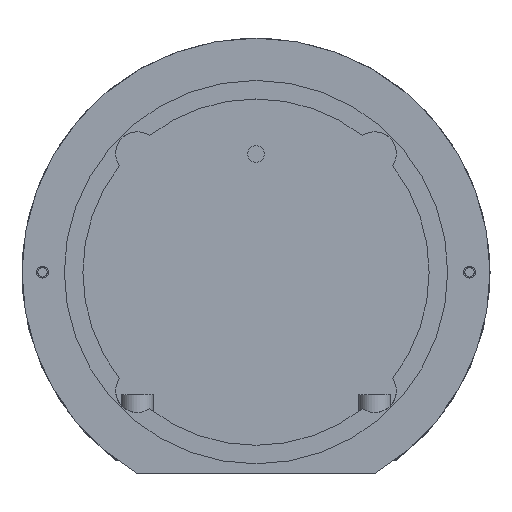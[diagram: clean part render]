
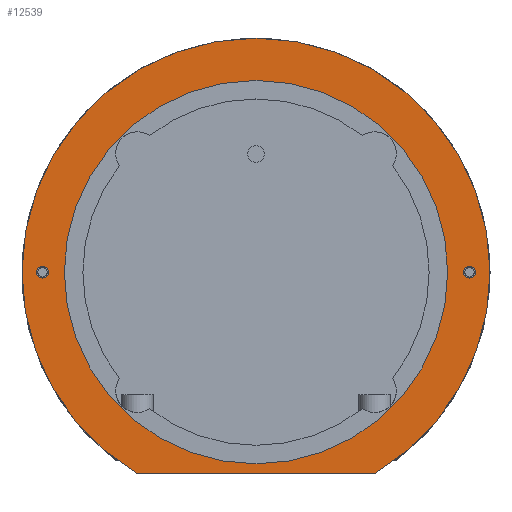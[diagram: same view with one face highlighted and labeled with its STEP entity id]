
A CAD part, top view. The second image highlights one B-rep face of the part: STEP entity #12539.
In plain terms, the highlighted planar face has unit normal (0, 0, 1).
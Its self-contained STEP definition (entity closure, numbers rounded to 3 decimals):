
#11918 = CYLINDRICAL_SURFACE('',#11919,65.);
#11919 = AXIS2_PLACEMENT_3D('',#11920,#11921,#11922);
#11920 = CARTESIAN_POINT('',(0.,0.,129.));
#11921 = DIRECTION('',(-0.,-0.,-1.));
#11922 = DIRECTION('',(1.,0.,0.));
#11943 = VERTEX_POINT('',#11944);
#11944 = CARTESIAN_POINT('',(33.,-56.,146.));
#11958 = PLANE('',#11959);
#11959 = AXIS2_PLACEMENT_3D('',#11960,#11961,#11962);
#11960 = CARTESIAN_POINT('',(-200.,-56.,-151.));
#11961 = DIRECTION('',(0.,1.,0.));
#11962 = DIRECTION('',(0.,0.,1.));
#11970 = EDGE_CURVE('',#11971,#11943,#11973,.T.);
#11971 = VERTEX_POINT('',#11972);
#11972 = CARTESIAN_POINT('',(-33.,-56.,146.));
#11973 = SURFACE_CURVE('',#11974,(#11979,#11986),.PCURVE_S1.);
#11974 = CIRCLE('',#11975,65.);
#11975 = AXIS2_PLACEMENT_3D('',#11976,#11977,#11978);
#11976 = CARTESIAN_POINT('',(0.,0.,146.));
#11977 = DIRECTION('',(-0.,0.,-1.));
#11978 = DIRECTION('',(-0.508,-0.862,0.));
#11979 = PCURVE('',#11918,#11980);
#11980 = DEFINITIONAL_REPRESENTATION('',(#11981),#11985);
#11981 = LINE('',#11982,#11983);
#11982 = CARTESIAN_POINT('',(-10.463,-17.));
#11983 = VECTOR('',#11984,1.);
#11984 = DIRECTION('',(1.,-0.));
#11985 = ( GEOMETRIC_REPRESENTATION_CONTEXT(2) 
PARAMETRIC_REPRESENTATION_CONTEXT() REPRESENTATION_CONTEXT('2D SPACE',''
  ) );
#11986 = PCURVE('',#11987,#11992);
#11987 = PLANE('',#11988);
#11988 = AXIS2_PLACEMENT_3D('',#11989,#11990,#11991);
#11989 = CARTESIAN_POINT('',(0.,0.,146.
    ));
#11990 = DIRECTION('',(0.,0.,1.));
#11991 = DIRECTION('',(1.,0.,-0.));
#11992 = DEFINITIONAL_REPRESENTATION('',(#11993),#12001);
#11993 = ( BOUNDED_CURVE() B_SPLINE_CURVE(2,(#11994,#11995,#11996,#11997
    ,#11998,#11999,#12000),.UNSPECIFIED.,.T.,.F.) 
B_SPLINE_CURVE_WITH_KNOTS((1,2,2,2,2,1),(-2.094,0.,
    2.094,4.189,6.283,8.378),
.UNSPECIFIED.) CURVE() GEOMETRIC_REPRESENTATION_ITEM() 
RATIONAL_B_SPLINE_CURVE((1.,0.5,1.,0.5,1.,0.5,1.)) REPRESENTATION_ITEM(
  '') );
#11994 = CARTESIAN_POINT('',(-33.,-56.));
#11995 = CARTESIAN_POINT('',(-129.995,1.158));
#11996 = CARTESIAN_POINT('',(-31.997,56.579));
#11997 = CARTESIAN_POINT('',(66.,112.));
#11998 = CARTESIAN_POINT('',(64.997,-0.579));
#11999 = CARTESIAN_POINT('',(63.995,-113.158));
#12000 = CARTESIAN_POINT('',(-33.,-56.));
#12001 = ( GEOMETRIC_REPRESENTATION_CONTEXT(2) 
PARAMETRIC_REPRESENTATION_CONTEXT() REPRESENTATION_CONTEXT('2D SPACE',''
  ) );
#12142 = CYLINDRICAL_SURFACE('',#12143,1.65);
#12143 = AXIS2_PLACEMENT_3D('',#12144,#12145,#12146);
#12144 = CARTESIAN_POINT('',(-59.3,0.,128.5));
#12145 = DIRECTION('',(-0.,-0.,-1.));
#12146 = DIRECTION('',(1.,0.,0.));
#12466 = CYLINDRICAL_SURFACE('',#12467,1.65);
#12467 = AXIS2_PLACEMENT_3D('',#12468,#12469,#12470);
#12468 = CARTESIAN_POINT('',(59.3,0.,128.5));
#12469 = DIRECTION('',(-0.,-0.,-1.));
#12470 = DIRECTION('',(1.,0.,0.));
#12517 = EDGE_CURVE('',#11943,#11971,#12518,.T.);
#12518 = SURFACE_CURVE('',#12519,(#12523,#12530),.PCURVE_S1.);
#12519 = LINE('',#12520,#12521);
#12520 = CARTESIAN_POINT('',(-100.,-56.,146.));
#12521 = VECTOR('',#12522,1.);
#12522 = DIRECTION('',(-1.,0.,0.));
#12523 = PCURVE('',#11958,#12524);
#12524 = DEFINITIONAL_REPRESENTATION('',(#12525),#12529);
#12525 = LINE('',#12526,#12527);
#12526 = CARTESIAN_POINT('',(297.,100.));
#12527 = VECTOR('',#12528,1.);
#12528 = DIRECTION('',(0.,-1.));
#12529 = ( GEOMETRIC_REPRESENTATION_CONTEXT(2) 
PARAMETRIC_REPRESENTATION_CONTEXT() REPRESENTATION_CONTEXT('2D SPACE',''
  ) );
#12530 = PCURVE('',#11987,#12531);
#12531 = DEFINITIONAL_REPRESENTATION('',(#12532),#12536);
#12532 = LINE('',#12533,#12534);
#12533 = CARTESIAN_POINT('',(-100.,-56.));
#12534 = VECTOR('',#12535,1.);
#12535 = DIRECTION('',(-1.,0.));
#12536 = ( GEOMETRIC_REPRESENTATION_CONTEXT(2) 
PARAMETRIC_REPRESENTATION_CONTEXT() REPRESENTATION_CONTEXT('2D SPACE',''
  ) );
#12539 = ADVANCED_FACE('',(#12540,#12544,#12574,#12609),#11987,.T.);
#12540 = FACE_BOUND('',#12541,.T.);
#12541 = EDGE_LOOP('',(#12542,#12543));
#12542 = ORIENTED_EDGE('',*,*,#12517,.F.);
#12543 = ORIENTED_EDGE('',*,*,#11970,.F.);
#12544 = FACE_BOUND('',#12545,.T.);
#12545 = EDGE_LOOP('',(#12546));
#12546 = ORIENTED_EDGE('',*,*,#12547,.T.);
#12547 = EDGE_CURVE('',#12548,#12548,#12550,.T.);
#12548 = VERTEX_POINT('',#12549);
#12549 = CARTESIAN_POINT('',(-57.65,0.,146.));
#12550 = SURFACE_CURVE('',#12551,(#12556,#12567),.PCURVE_S1.);
#12551 = CIRCLE('',#12552,1.65);
#12552 = AXIS2_PLACEMENT_3D('',#12553,#12554,#12555);
#12553 = CARTESIAN_POINT('',(-59.3,0.,146.));
#12554 = DIRECTION('',(0.,0.,-1.));
#12555 = DIRECTION('',(1.,0.,0.));
#12556 = PCURVE('',#11987,#12557);
#12557 = DEFINITIONAL_REPRESENTATION('',(#12558),#12566);
#12558 = ( BOUNDED_CURVE() B_SPLINE_CURVE(2,(#12559,#12560,#12561,#12562
    ,#12563,#12564,#12565),.UNSPECIFIED.,.T.,.F.) 
B_SPLINE_CURVE_WITH_KNOTS((1,2,2,2,2,1),(-2.094,0.,
    2.094,4.189,6.283,8.378),
.UNSPECIFIED.) CURVE() GEOMETRIC_REPRESENTATION_ITEM() 
RATIONAL_B_SPLINE_CURVE((1.,0.5,1.,0.5,1.,0.5,1.)) REPRESENTATION_ITEM(
  '') );
#12559 = CARTESIAN_POINT('',(-57.65,0.));
#12560 = CARTESIAN_POINT('',(-57.65,-2.858));
#12561 = CARTESIAN_POINT('',(-60.125,-1.429));
#12562 = CARTESIAN_POINT('',(-62.6,0.));
#12563 = CARTESIAN_POINT('',(-60.125,1.429));
#12564 = CARTESIAN_POINT('',(-57.65,2.858));
#12565 = CARTESIAN_POINT('',(-57.65,0.));
#12566 = ( GEOMETRIC_REPRESENTATION_CONTEXT(2) 
PARAMETRIC_REPRESENTATION_CONTEXT() REPRESENTATION_CONTEXT('2D SPACE',''
  ) );
#12567 = PCURVE('',#12142,#12568);
#12568 = DEFINITIONAL_REPRESENTATION('',(#12569),#12573);
#12569 = LINE('',#12570,#12571);
#12570 = CARTESIAN_POINT('',(-6.283,-17.5));
#12571 = VECTOR('',#12572,1.);
#12572 = DIRECTION('',(1.,-0.));
#12573 = ( GEOMETRIC_REPRESENTATION_CONTEXT(2) 
PARAMETRIC_REPRESENTATION_CONTEXT() REPRESENTATION_CONTEXT('2D SPACE',''
  ) );
#12574 = FACE_BOUND('',#12575,.T.);
#12575 = EDGE_LOOP('',(#12576));
#12576 = ORIENTED_EDGE('',*,*,#12577,.T.);
#12577 = EDGE_CURVE('',#12578,#12578,#12580,.T.);
#12578 = VERTEX_POINT('',#12579);
#12579 = CARTESIAN_POINT('',(53.25,0.,146.));
#12580 = SURFACE_CURVE('',#12581,(#12586,#12597),.PCURVE_S1.);
#12581 = CIRCLE('',#12582,53.25);
#12582 = AXIS2_PLACEMENT_3D('',#12583,#12584,#12585);
#12583 = CARTESIAN_POINT('',(0.,0.,146.));
#12584 = DIRECTION('',(0.,0.,-1.));
#12585 = DIRECTION('',(1.,0.,0.));
#12586 = PCURVE('',#11987,#12587);
#12587 = DEFINITIONAL_REPRESENTATION('',(#12588),#12596);
#12588 = ( BOUNDED_CURVE() B_SPLINE_CURVE(2,(#12589,#12590,#12591,#12592
    ,#12593,#12594,#12595),.UNSPECIFIED.,.T.,.F.) 
B_SPLINE_CURVE_WITH_KNOTS((1,2,2,2,2,1),(-2.094,0.,
    2.094,4.189,6.283,8.378),
.UNSPECIFIED.) CURVE() GEOMETRIC_REPRESENTATION_ITEM() 
RATIONAL_B_SPLINE_CURVE((1.,0.5,1.,0.5,1.,0.5,1.)) REPRESENTATION_ITEM(
  '') );
#12589 = CARTESIAN_POINT('',(53.25,0.));
#12590 = CARTESIAN_POINT('',(53.25,-92.232));
#12591 = CARTESIAN_POINT('',(-26.625,-46.116));
#12592 = CARTESIAN_POINT('',(-106.5,0.));
#12593 = CARTESIAN_POINT('',(-26.625,46.116));
#12594 = CARTESIAN_POINT('',(53.25,92.232));
#12595 = CARTESIAN_POINT('',(53.25,0.));
#12596 = ( GEOMETRIC_REPRESENTATION_CONTEXT(2) 
PARAMETRIC_REPRESENTATION_CONTEXT() REPRESENTATION_CONTEXT('2D SPACE',''
  ) );
#12597 = PCURVE('',#12598,#12603);
#12598 = CYLINDRICAL_SURFACE('',#12599,53.25);
#12599 = AXIS2_PLACEMENT_3D('',#12600,#12601,#12602);
#12600 = CARTESIAN_POINT('',(0.,0.,144.));
#12601 = DIRECTION('',(-0.,-0.,-1.));
#12602 = DIRECTION('',(1.,0.,0.));
#12603 = DEFINITIONAL_REPRESENTATION('',(#12604),#12608);
#12604 = LINE('',#12605,#12606);
#12605 = CARTESIAN_POINT('',(-6.283,-2.));
#12606 = VECTOR('',#12607,1.);
#12607 = DIRECTION('',(1.,-0.));
#12608 = ( GEOMETRIC_REPRESENTATION_CONTEXT(2) 
PARAMETRIC_REPRESENTATION_CONTEXT() REPRESENTATION_CONTEXT('2D SPACE',''
  ) );
#12609 = FACE_BOUND('',#12610,.T.);
#12610 = EDGE_LOOP('',(#12611));
#12611 = ORIENTED_EDGE('',*,*,#12612,.T.);
#12612 = EDGE_CURVE('',#12613,#12613,#12615,.T.);
#12613 = VERTEX_POINT('',#12614);
#12614 = CARTESIAN_POINT('',(60.95,0.,146.));
#12615 = SURFACE_CURVE('',#12616,(#12621,#12632),.PCURVE_S1.);
#12616 = CIRCLE('',#12617,1.65);
#12617 = AXIS2_PLACEMENT_3D('',#12618,#12619,#12620);
#12618 = CARTESIAN_POINT('',(59.3,0.,146.));
#12619 = DIRECTION('',(0.,0.,-1.));
#12620 = DIRECTION('',(1.,0.,0.));
#12621 = PCURVE('',#11987,#12622);
#12622 = DEFINITIONAL_REPRESENTATION('',(#12623),#12631);
#12623 = ( BOUNDED_CURVE() B_SPLINE_CURVE(2,(#12624,#12625,#12626,#12627
    ,#12628,#12629,#12630),.UNSPECIFIED.,.T.,.F.) 
B_SPLINE_CURVE_WITH_KNOTS((1,2,2,2,2,1),(-2.094,0.,
    2.094,4.189,6.283,8.378),
.UNSPECIFIED.) CURVE() GEOMETRIC_REPRESENTATION_ITEM() 
RATIONAL_B_SPLINE_CURVE((1.,0.5,1.,0.5,1.,0.5,1.)) REPRESENTATION_ITEM(
  '') );
#12624 = CARTESIAN_POINT('',(60.95,0.));
#12625 = CARTESIAN_POINT('',(60.95,-2.858));
#12626 = CARTESIAN_POINT('',(58.475,-1.429));
#12627 = CARTESIAN_POINT('',(56.,0.));
#12628 = CARTESIAN_POINT('',(58.475,1.429));
#12629 = CARTESIAN_POINT('',(60.95,2.858));
#12630 = CARTESIAN_POINT('',(60.95,0.));
#12631 = ( GEOMETRIC_REPRESENTATION_CONTEXT(2) 
PARAMETRIC_REPRESENTATION_CONTEXT() REPRESENTATION_CONTEXT('2D SPACE',''
  ) );
#12632 = PCURVE('',#12466,#12633);
#12633 = DEFINITIONAL_REPRESENTATION('',(#12634),#12638);
#12634 = LINE('',#12635,#12636);
#12635 = CARTESIAN_POINT('',(-6.283,-17.5));
#12636 = VECTOR('',#12637,1.);
#12637 = DIRECTION('',(1.,-0.));
#12638 = ( GEOMETRIC_REPRESENTATION_CONTEXT(2) 
PARAMETRIC_REPRESENTATION_CONTEXT() REPRESENTATION_CONTEXT('2D SPACE',''
  ) );
